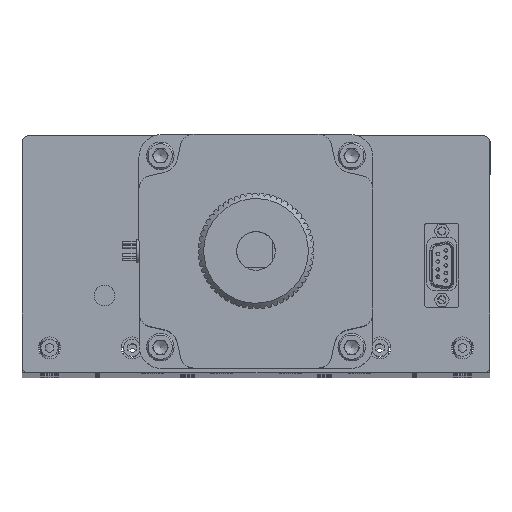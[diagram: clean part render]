
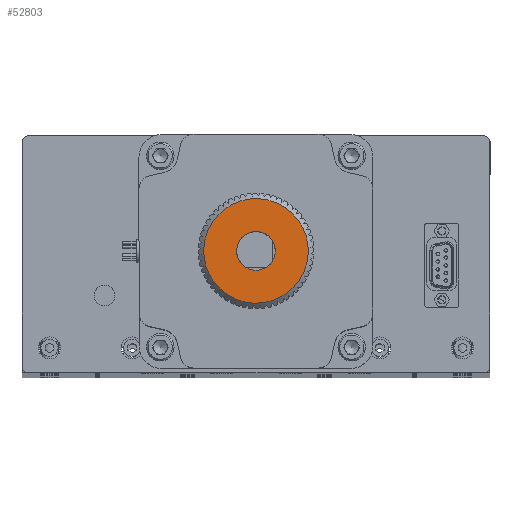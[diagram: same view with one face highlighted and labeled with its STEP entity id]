
A CAD part, top view. The second image highlights one B-rep face of the part: STEP entity #52803.
In plain terms, the highlighted planar face has unit normal (0, 0, 1).
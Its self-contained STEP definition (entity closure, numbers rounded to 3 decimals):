
#842 = VERTEX_POINT ( 'NONE', #34946 ) ;
#843 = VERTEX_POINT ( 'NONE', #34945 ) ;
#3406 = FACE_BOUND ( 'NONE', #17857, .T. ) ;
#5856 = CIRCLE ( 'NONE', #18400, 19. ) ;
#5863 = CIRCLE ( 'NONE', #18398, 7. ) ;
#17855 = EDGE_LOOP ( 'NONE', ( #31914 ) ) ;
#17857 = EDGE_LOOP ( 'NONE', ( #31913 ) ) ;
#18398 = AXIS2_PLACEMENT_3D ( 'NONE', #20981, #20982, #20983 ) ;
#18400 = AXIS2_PLACEMENT_3D ( 'NONE', #20984, #20985, #20986 ) ;
#20981 = CARTESIAN_POINT ( 'NONE',  ( -109.849, 50.187, 675. ) ) ;
#20982 = DIRECTION ( 'NONE',  ( 0., 0., -1. ) ) ;
#20983 = DIRECTION ( 'NONE',  ( -0.957, -0.291, 0. ) ) ;
#20984 = CARTESIAN_POINT ( 'NONE',  ( -109.849, 50.187, 675. ) ) ;
#20985 = DIRECTION ( 'NONE',  ( 0., 0., 1. ) ) ;
#20986 = DIRECTION ( 'NONE',  ( -0.957, -0.291, 0. ) ) ;
#31913 = ORIENTED_EDGE ( 'NONE', *, *, #48622, .T. ) ;
#31914 = ORIENTED_EDGE ( 'NONE', *, *, #48623, .T. ) ;
#34945 = CARTESIAN_POINT ( 'NONE',  ( -116.546, 48.151, 675. ) ) ;
#34946 = CARTESIAN_POINT ( 'NONE',  ( -128.028, 44.662, 675. ) ) ;
#39700 = AXIS2_PLACEMENT_3D ( 'NONE', #40225, #40233, #40234 ) ;
#40225 = CARTESIAN_POINT ( 'NONE',  ( -111.884, 56.884, 675. ) ) ;
#40231 = PLANE ( 'NONE',  #39700 ) ;
#40233 = DIRECTION ( 'NONE',  ( 0., 0., -1. ) ) ;
#40234 = DIRECTION ( 'NONE',  ( -0.957, -0.291, 0. ) ) ;
#43409 = FACE_OUTER_BOUND ( 'NONE', #17855, .T. ) ;
#48622 = EDGE_CURVE ( 'NONE', #843, #843, #5863, .T. ) ;
#48623 = EDGE_CURVE ( 'NONE', #842, #842, #5856, .T. ) ;
#52803 = ADVANCED_FACE ( 'NONE', ( #43409, #3406 ), #40231, .F. ) ;
